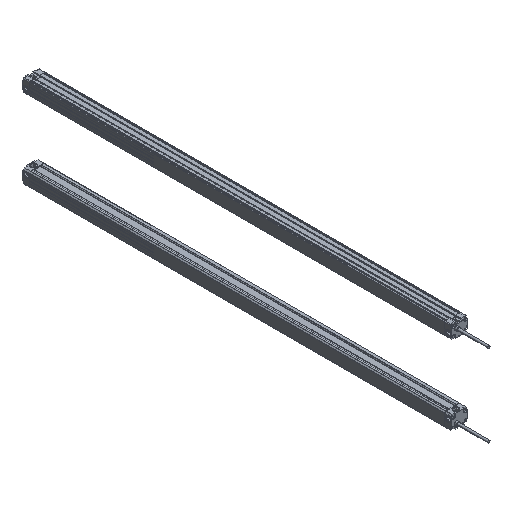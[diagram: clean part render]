
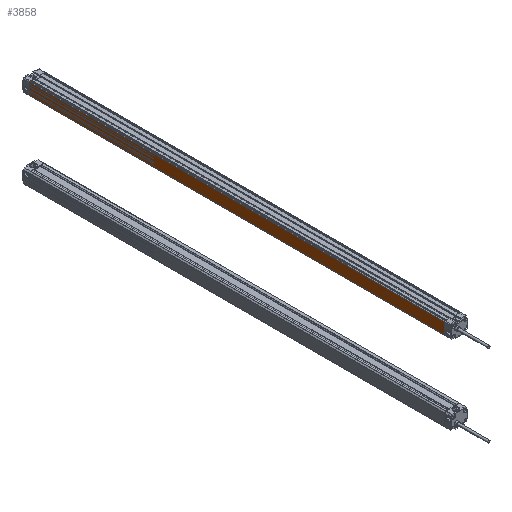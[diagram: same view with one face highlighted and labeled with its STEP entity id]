
A CAD part, isometric view. The second image highlights one B-rep face of the part: STEP entity #3858.
In plain terms, the highlighted planar face has unit normal (-1, 0, 0) as drawn and (1, 0, 0) by its records, which use the part's own axes.
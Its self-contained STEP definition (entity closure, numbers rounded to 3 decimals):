
#187 = ORIENTED_EDGE ( 'NONE', *, *, #6512, .T. ) ;
#254 = VECTOR ( 'NONE', #8608, 1000. ) ;
#255 = VERTEX_POINT ( 'NONE', #8360 ) ;
#356 = CARTESIAN_POINT ( 'NONE',  ( 12.5, -640., -9.2 ) ) ;
#1039 = LINE ( 'NONE', #4367, #254 ) ;
#1367 = CARTESIAN_POINT ( 'NONE',  ( 12.5, -640., 8.293 ) ) ;
#1439 = VERTEX_POINT ( 'NONE', #6270 ) ;
#2252 = EDGE_CURVE ( 'NONE', #2938, #8843, #1039, .T. ) ;
#2474 = DIRECTION ( 'NONE',  ( 0., 1., 0. ) ) ;
#2827 = DIRECTION ( 'NONE',  ( 0., 0., -1. ) ) ;
#2894 = DIRECTION ( 'NONE',  ( 0., 0., -1. ) ) ;
#2938 = VERTEX_POINT ( 'NONE', #1367 ) ;
#3685 = LINE ( 'NONE', #5540, #8959 ) ;
#3858 = ADVANCED_FACE ( 'NONE', ( #8064 ), #10224, .T. ) ;
#3985 = EDGE_CURVE ( 'NONE', #1439, #255, #3685, .T. ) ;
#4359 = CARTESIAN_POINT ( 'NONE',  ( 12.5, -640., 8.293 ) ) ;
#4367 = CARTESIAN_POINT ( 'NONE',  ( 12.5, -640., 8.293 ) ) ;
#4746 = ORIENTED_EDGE ( 'NONE', *, *, #3985, .F. ) ;
#5071 = CARTESIAN_POINT ( 'NONE',  ( 12.5, -640., 8.293 ) ) ;
#5201 = DIRECTION ( 'NONE',  ( 0., 1., 0. ) ) ;
#5423 = VECTOR ( 'NONE', #5201, 1000. ) ;
#5528 = ORIENTED_EDGE ( 'NONE', *, *, #5642, .F. ) ;
#5540 = CARTESIAN_POINT ( 'NONE',  ( 12.5, 0., 8.293 ) ) ;
#5642 = EDGE_CURVE ( 'NONE', #2938, #1439, #7680, .T. ) ;
#6160 = EDGE_LOOP ( 'NONE', ( #4746, #5528, #9972, #187 ) ) ;
#6270 = CARTESIAN_POINT ( 'NONE',  ( 12.5, 0., 8.293 ) ) ;
#6378 = VECTOR ( 'NONE', #2474, 1000. ) ;
#6512 = EDGE_CURVE ( 'NONE', #8843, #255, #8869, .T. ) ;
#6740 = CARTESIAN_POINT ( 'NONE',  ( 12.5, -640., -9.2 ) ) ;
#7033 = AXIS2_PLACEMENT_3D ( 'NONE', #5071, #9518, #2827 ) ;
#7680 = LINE ( 'NONE', #4359, #5423 ) ;
#8064 = FACE_OUTER_BOUND ( 'NONE', #6160, .T. ) ;
#8360 = CARTESIAN_POINT ( 'NONE',  ( 12.5, 0., -9.2 ) ) ;
#8608 = DIRECTION ( 'NONE',  ( 0., 0., -1. ) ) ;
#8843 = VERTEX_POINT ( 'NONE', #356 ) ;
#8869 = LINE ( 'NONE', #6740, #6378 ) ;
#8959 = VECTOR ( 'NONE', #2894, 1000. ) ;
#9518 = DIRECTION ( 'NONE',  ( 1., 0., 0. ) ) ;
#9972 = ORIENTED_EDGE ( 'NONE', *, *, #2252, .T. ) ;
#10224 = PLANE ( 'NONE',  #7033 ) ;
